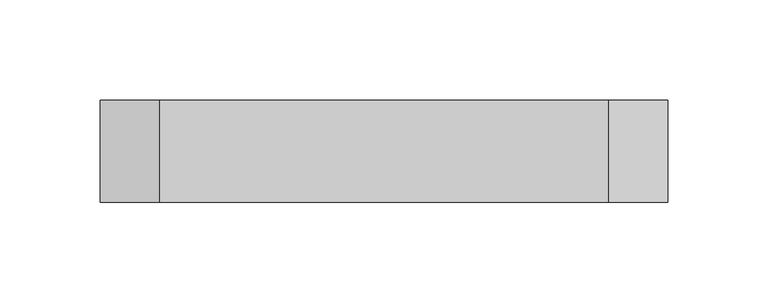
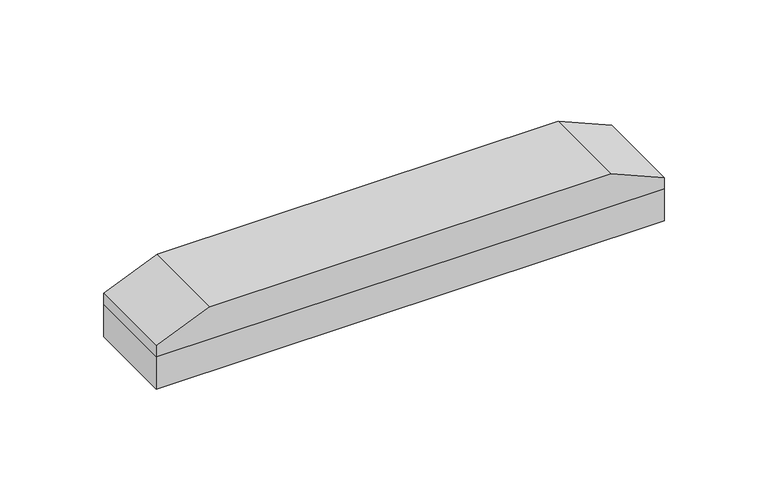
"""IFC4 building model written with IfcOpenShell, lengths in millimetres: proxy geometry, Spinneybeck_ARO Plank 8 : B - 2’-9” x 2” x 3/4”."""

from ifc_helpers import new_model, si_unit, frame, origin, origin_with_axes, place, context, project, spatial, polyline, outline, extrude, source, transform, mapped, element, save


def specialty_equipment_d85b5aa4(model_context):
    return source(origin(), model_context, "Body", "SweptSolid", [
        extrude(outline(polyline([(19.05, -141.27169), (19.05, 141.27169), (25.4, 141.27169), (38.1, 111.6383567), (38.1, -111.6383567), (25.4, -141.27169), (19.05, -141.27169)])), frame((0.0, -25.4, 0.0), z_axis=(0.0, 1.0, 0.0), x_axis=(0.0, 0.0, 1.0)), (0.0, 0.0, 1.0), 50.8),
        extrude(outline(polyline([(-141.27169, -25.4), (-141.27169, 25.4), (141.27169, 25.4), (141.27169, -25.4), (-141.27169, -25.4)])), origin_with_axes(), (0.0, 0.0, 1.0), 19.05),
    ])


if __name__ == "__main__":
    model = new_model("IFC4")
    model_context = context("Model", 3, world=origin())
    ifc_project = project(units=[si_unit("LENGTHUNIT", "METRE", prefix="MILLI")], contexts=[model_context])
    site = spatial("IfcSite", under=ifc_project)
    building = spatial("IfcBuilding", under=site)
    placement = place(None, origin())
    specialty_equipment_shape = specialty_equipment_d85b5aa4(model_context)
    element("IfcBuildingElementProxy", 1, Name="Spinneybeck_ARO Plank 8 : B - 2’-9” x 2” x 3/4”", ObjectType="Spinneybeck_ARO Plank 8 : B - 2’-9” x 2” x 3/4”", at=placement, inside=building, context=model_context, shape_type="MappedRepresentation", body=[
        mapped(specialty_equipment_shape, transform((0.0, 0.0, 0.0), x_axis=(1.0, 0.0, 0.0), y_axis=(0.0, 1.0, 0.0), z_axis=(0.0, 0.0, 1.0))),
    ])
    save(model, "model.ifc")
